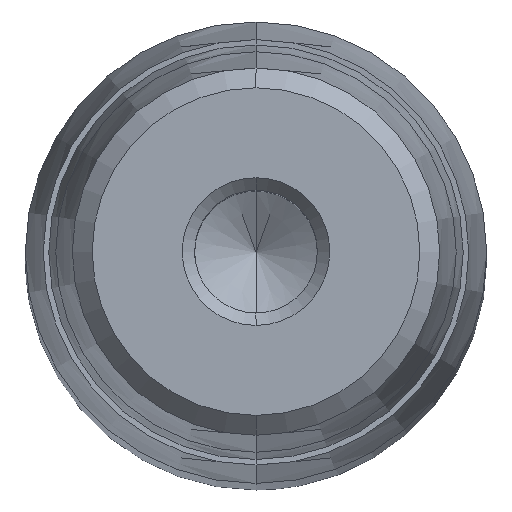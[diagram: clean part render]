
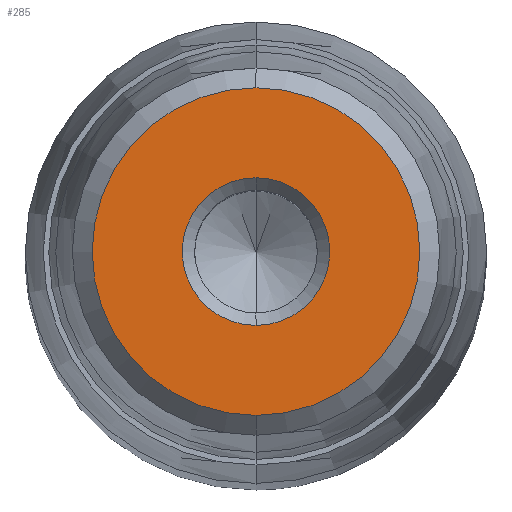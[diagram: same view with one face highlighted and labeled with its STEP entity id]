
A CAD part, top view. The second image highlights one B-rep face of the part: STEP entity #285.
In plain terms, the highlighted planar face has unit normal (0, 0, 1).
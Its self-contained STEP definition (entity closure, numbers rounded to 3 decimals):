
#164=CARTESIAN_POINT('Axis2P3D Location',(0.,0.,35.)) ;
#168=CARTESIAN_POINT('Vertex',(4.,0.,35.)) ;
#170=CARTESIAN_POINT('Vertex',(0.,-4.,35.)) ;
#173=CARTESIAN_POINT('Axis2P3D Location',(0.,0.,35.)) ;
#177=CARTESIAN_POINT('Vertex',(0.,4.,35.)) ;
#228=CARTESIAN_POINT('Axis2P3D Location',(0.,4.,35.)) ;
#233=CARTESIAN_POINT('Axis2P3D Location',(0.,0.,35.)) ;
#237=CARTESIAN_POINT('Vertex',(0.,8.875,35.)) ;
#239=CARTESIAN_POINT('Vertex',(8.875,0.,35.)) ;
#242=CARTESIAN_POINT('Axis2P3D Location',(0.,0.,35.)) ;
#246=CARTESIAN_POINT('Vertex',(-8.875,0.,35.)) ;
#249=CARTESIAN_POINT('Axis2P3D Location',(0.,0.,35.)) ;
#253=CARTESIAN_POINT('Vertex',(0.,-8.875,35.)) ;
#256=CARTESIAN_POINT('Axis2P3D Location',(0.,0.,35.)) ;
#267=CARTESIAN_POINT('Axis2P3D Location',(0.,0.,35.)) ;
#271=CARTESIAN_POINT('Vertex',(-4.,0.,35.)) ;
#274=CARTESIAN_POINT('Axis2P3D Location',(0.,0.,35.)) ;
#165=DIRECTION('Axis2P3D Direction',(-0.,0.,1.)) ;
#174=DIRECTION('Axis2P3D Direction',(-0.,0.,1.)) ;
#229=DIRECTION('Axis2P3D Direction',(0.,0.,-1.)) ;
#230=DIRECTION('Axis2P3D XDirection',(0.,1.,0.)) ;
#234=DIRECTION('Axis2P3D Direction',(0.,0.,-1.)) ;
#243=DIRECTION('Axis2P3D Direction',(0.,0.,-1.)) ;
#250=DIRECTION('Axis2P3D Direction',(0.,0.,-1.)) ;
#257=DIRECTION('Axis2P3D Direction',(0.,0.,-1.)) ;
#268=DIRECTION('Axis2P3D Direction',(0.,0.,-1.)) ;
#275=DIRECTION('Axis2P3D Direction',(0.,0.,-1.)) ;
#166=AXIS2_PLACEMENT_3D('Circle Axis2P3D',#164,#165,$) ;
#175=AXIS2_PLACEMENT_3D('Circle Axis2P3D',#173,#174,$) ;
#231=AXIS2_PLACEMENT_3D('Plane Axis2P3D',#228,#229,#230) ;
#235=AXIS2_PLACEMENT_3D('Circle Axis2P3D',#233,#234,$) ;
#244=AXIS2_PLACEMENT_3D('Circle Axis2P3D',#242,#243,$) ;
#251=AXIS2_PLACEMENT_3D('Circle Axis2P3D',#249,#250,$) ;
#258=AXIS2_PLACEMENT_3D('Circle Axis2P3D',#256,#257,$) ;
#269=AXIS2_PLACEMENT_3D('Circle Axis2P3D',#267,#268,$) ;
#276=AXIS2_PLACEMENT_3D('Circle Axis2P3D',#274,#275,$) ;
#262=ORIENTED_EDGE('',*,*,#241,.F.) ;
#263=ORIENTED_EDGE('',*,*,#248,.F.) ;
#264=ORIENTED_EDGE('',*,*,#255,.F.) ;
#265=ORIENTED_EDGE('',*,*,#260,.F.) ;
#280=ORIENTED_EDGE('',*,*,#172,.T.) ;
#281=ORIENTED_EDGE('',*,*,#273,.T.) ;
#282=ORIENTED_EDGE('',*,*,#278,.T.) ;
#283=ORIENTED_EDGE('',*,*,#179,.T.) ;
#284=FACE_BOUND('',#279,.T.) ;
#285=ADVANCED_FACE('722-25x224x247',(#266,#284),#232,.F.) ;
#167=CIRCLE('generated circle',#166,4.) ;
#176=CIRCLE('generated circle',#175,4.) ;
#236=CIRCLE('generated circle',#235,8.875) ;
#245=CIRCLE('generated circle',#244,8.875) ;
#252=CIRCLE('generated circle',#251,8.875) ;
#259=CIRCLE('generated circle',#258,8.875) ;
#270=CIRCLE('generated circle',#269,4.) ;
#277=CIRCLE('generated circle',#276,4.) ;
#172=EDGE_CURVE('',#169,#171,#167,.F.) ;
#179=EDGE_CURVE('',#178,#169,#176,.F.) ;
#241=EDGE_CURVE('',#238,#240,#236,.T.) ;
#248=EDGE_CURVE('',#247,#238,#245,.T.) ;
#255=EDGE_CURVE('',#254,#247,#252,.T.) ;
#260=EDGE_CURVE('',#240,#254,#259,.T.) ;
#273=EDGE_CURVE('',#171,#272,#270,.T.) ;
#278=EDGE_CURVE('',#272,#178,#277,.T.) ;
#261=EDGE_LOOP('',(#262,#263,#264,#265)) ;
#279=EDGE_LOOP('',(#280,#281,#282,#283)) ;
#266=FACE_OUTER_BOUND('',#261,.T.) ;
#232=PLANE('Plane',#231) ;
#169=VERTEX_POINT('',#168) ;
#171=VERTEX_POINT('',#170) ;
#178=VERTEX_POINT('',#177) ;
#238=VERTEX_POINT('',#237) ;
#240=VERTEX_POINT('',#239) ;
#247=VERTEX_POINT('',#246) ;
#254=VERTEX_POINT('',#253) ;
#272=VERTEX_POINT('',#271) ;
